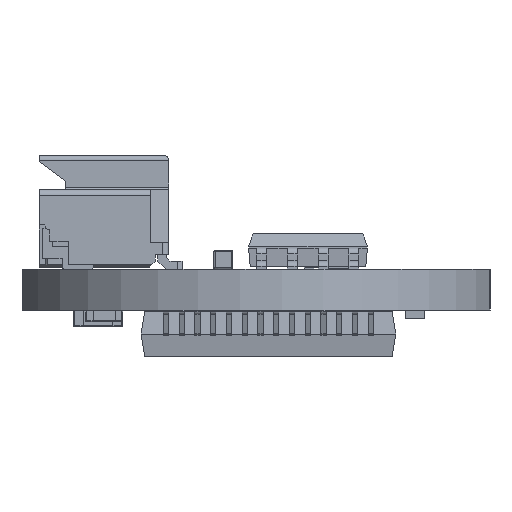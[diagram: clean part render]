
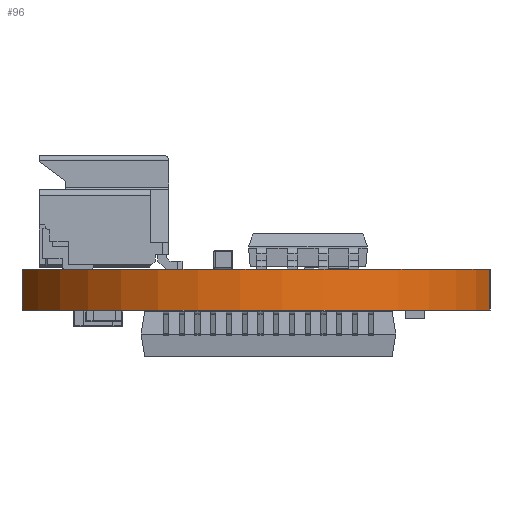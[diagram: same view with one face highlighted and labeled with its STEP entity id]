
A CAD part, left-side view. The second image highlights one B-rep face of the part: STEP entity #96.
In plain terms, the highlighted cylindrical face has radius 10.014 mm (diameter 20.028 mm), a partial arc.
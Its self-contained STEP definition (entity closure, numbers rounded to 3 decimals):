
#96 = ADVANCED_FACE('',(#97),#111,.T.);
#97 = FACE_BOUND('',#98,.T.);
#98 = EDGE_LOOP('',(#99,#134,#167,#195));
#99 = ORIENTED_EDGE('',*,*,#100,.T.);
#100 = EDGE_CURVE('',#101,#103,#105,.T.);
#101 = VERTEX_POINT('',#102);
#102 = CARTESIAN_POINT('',(-2.424,-9.703,0.));
#103 = VERTEX_POINT('',#104);
#104 = CARTESIAN_POINT('',(-2.424,-9.703,1.69));
#105 = SURFACE_CURVE('',#106,(#110,#122),.PCURVE_S1.);
#106 = LINE('',#107,#108);
#107 = CARTESIAN_POINT('',(-2.424,-9.703,0.));
#108 = VECTOR('',#109,1.);
#109 = DIRECTION('',(0.,0.,1.));
#110 = PCURVE('',#111,#116);
#111 = CYLINDRICAL_SURFACE('',#112,10.014);
#112 = AXIS2_PLACEMENT_3D('',#113,#114,#115);
#113 = CARTESIAN_POINT('',(-0.006,0.015,
    0.));
#114 = DIRECTION('',(0.,0.,-1.));
#115 = DIRECTION('',(-0.242,-0.97,0.));
#116 = DEFINITIONAL_REPRESENTATION('',(#117),#121);
#117 = LINE('',#118,#119);
#118 = CARTESIAN_POINT('',(0.,0.));
#119 = VECTOR('',#120,1.);
#120 = DIRECTION('',(0.,-1.));
#121 = ( GEOMETRIC_REPRESENTATION_CONTEXT(2) 
PARAMETRIC_REPRESENTATION_CONTEXT() REPRESENTATION_CONTEXT('2D SPACE',''
  ) );
#122 = PCURVE('',#123,#128);
#123 = CYLINDRICAL_SURFACE('',#124,0.074);
#124 = AXIS2_PLACEMENT_3D('',#125,#126,#127);
#125 = CARTESIAN_POINT('',(-2.407,-9.631,0.));
#126 = DIRECTION('',(0.,0.,-1.));
#127 = DIRECTION('',(-0.202,-0.979,0.));
#128 = DEFINITIONAL_REPRESENTATION('',(#129),#133);
#129 = LINE('',#130,#131);
#130 = CARTESIAN_POINT('',(0.037,0.));
#131 = VECTOR('',#132,1.);
#132 = DIRECTION('',(0.,-1.));
#133 = ( GEOMETRIC_REPRESENTATION_CONTEXT(2) 
PARAMETRIC_REPRESENTATION_CONTEXT() REPRESENTATION_CONTEXT('2D SPACE',''
  ) );
#134 = ORIENTED_EDGE('',*,*,#135,.T.);
#135 = EDGE_CURVE('',#103,#136,#138,.T.);
#136 = VERTEX_POINT('',#137);
#137 = CARTESIAN_POINT('',(-2.964,9.582,1.69));
#138 = SURFACE_CURVE('',#139,(#144,#151),.PCURVE_S1.);
#139 = CIRCLE('',#140,10.014);
#140 = AXIS2_PLACEMENT_3D('',#141,#142,#143);
#141 = CARTESIAN_POINT('',(-0.006,0.015,
    1.69));
#142 = DIRECTION('',(0.,0.,-1.));
#143 = DIRECTION('',(-0.242,-0.97,0.));
#144 = PCURVE('',#111,#145);
#145 = DEFINITIONAL_REPRESENTATION('',(#146),#150);
#146 = LINE('',#147,#148);
#147 = CARTESIAN_POINT('',(0.,-1.69));
#148 = VECTOR('',#149,1.);
#149 = DIRECTION('',(1.,0.));
#150 = ( GEOMETRIC_REPRESENTATION_CONTEXT(2) 
PARAMETRIC_REPRESENTATION_CONTEXT() REPRESENTATION_CONTEXT('2D SPACE',''
  ) );
#151 = PCURVE('',#152,#157);
#152 = PLANE('',#153);
#153 = AXIS2_PLACEMENT_3D('',#154,#155,#156);
#154 = CARTESIAN_POINT('',(-2.424,-9.703,1.69));
#155 = DIRECTION('',(0.,0.,1.));
#156 = DIRECTION('',(1.,0.,0.));
#157 = DEFINITIONAL_REPRESENTATION('',(#158),#166);
#158 = ( BOUNDED_CURVE() B_SPLINE_CURVE(2,(#159,#160,#161,#162,#163,#164
,#165),.UNSPECIFIED.,.F.,.F.) B_SPLINE_CURVE_WITH_KNOTS((1,2,2,2,2,1),(
    -2.094,0.,2.094,4.189,6.283,
8.378),.UNSPECIFIED.) CURVE() GEOMETRIC_REPRESENTATION_ITEM() 
RATIONAL_B_SPLINE_CURVE((1.,0.5,1.,0.5,1.,0.5,1.)) REPRESENTATION_ITEM(
  '') );
#159 = CARTESIAN_POINT('',(0.,0.));
#160 = CARTESIAN_POINT('',(-16.831,4.189));
#161 = CARTESIAN_POINT('',(-4.788,16.671));
#162 = CARTESIAN_POINT('',(7.255,29.152));
#163 = CARTESIAN_POINT('',(12.043,12.482));
#164 = CARTESIAN_POINT('',(16.831,-4.189));
#165 = CARTESIAN_POINT('',(0.,0.));
#166 = ( GEOMETRIC_REPRESENTATION_CONTEXT(2) 
PARAMETRIC_REPRESENTATION_CONTEXT() REPRESENTATION_CONTEXT('2D SPACE',''
  ) );
#167 = ORIENTED_EDGE('',*,*,#168,.F.);
#168 = EDGE_CURVE('',#169,#136,#171,.T.);
#169 = VERTEX_POINT('',#170);
#170 = CARTESIAN_POINT('',(-2.964,9.582,0.));
#171 = SURFACE_CURVE('',#172,(#176,#183),.PCURVE_S1.);
#172 = LINE('',#173,#174);
#173 = CARTESIAN_POINT('',(-2.964,9.582,0.));
#174 = VECTOR('',#175,1.);
#175 = DIRECTION('',(0.,0.,1.));
#176 = PCURVE('',#111,#177);
#177 = DEFINITIONAL_REPRESENTATION('',(#178),#182);
#178 = LINE('',#179,#180);
#179 = CARTESIAN_POINT('',(2.598,0.));
#180 = VECTOR('',#181,1.);
#181 = DIRECTION('',(0.,-1.));
#182 = ( GEOMETRIC_REPRESENTATION_CONTEXT(2) 
PARAMETRIC_REPRESENTATION_CONTEXT() REPRESENTATION_CONTEXT('2D SPACE',''
  ) );
#183 = PCURVE('',#184,#189);
#184 = CYLINDRICAL_SURFACE('',#185,0.064);
#185 = AXIS2_PLACEMENT_3D('',#186,#187,#188);
#186 = CARTESIAN_POINT('',(-2.945,9.521,0.));
#187 = DIRECTION('',(0.,0.,-1.));
#188 = DIRECTION('',(-0.295,0.955,0.));
#189 = DEFINITIONAL_REPRESENTATION('',(#190),#194);
#190 = LINE('',#191,#192);
#191 = CARTESIAN_POINT('',(0.,0.));
#192 = VECTOR('',#193,1.);
#193 = DIRECTION('',(0.,-1.));
#194 = ( GEOMETRIC_REPRESENTATION_CONTEXT(2) 
PARAMETRIC_REPRESENTATION_CONTEXT() REPRESENTATION_CONTEXT('2D SPACE',''
  ) );
#195 = ORIENTED_EDGE('',*,*,#196,.F.);
#196 = EDGE_CURVE('',#101,#169,#197,.T.);
#197 = SURFACE_CURVE('',#198,(#203,#210),.PCURVE_S1.);
#198 = CIRCLE('',#199,10.014);
#199 = AXIS2_PLACEMENT_3D('',#200,#201,#202);
#200 = CARTESIAN_POINT('',(-0.006,0.015,
    0.));
#201 = DIRECTION('',(0.,0.,-1.));
#202 = DIRECTION('',(-0.242,-0.97,0.));
#203 = PCURVE('',#111,#204);
#204 = DEFINITIONAL_REPRESENTATION('',(#205),#209);
#205 = LINE('',#206,#207);
#206 = CARTESIAN_POINT('',(0.,0.));
#207 = VECTOR('',#208,1.);
#208 = DIRECTION('',(1.,0.));
#209 = ( GEOMETRIC_REPRESENTATION_CONTEXT(2) 
PARAMETRIC_REPRESENTATION_CONTEXT() REPRESENTATION_CONTEXT('2D SPACE',''
  ) );
#210 = PCURVE('',#211,#216);
#211 = PLANE('',#212);
#212 = AXIS2_PLACEMENT_3D('',#213,#214,#215);
#213 = CARTESIAN_POINT('',(-2.424,-9.703,0.));
#214 = DIRECTION('',(0.,0.,1.));
#215 = DIRECTION('',(1.,0.,0.));
#216 = DEFINITIONAL_REPRESENTATION('',(#217),#225);
#217 = ( BOUNDED_CURVE() B_SPLINE_CURVE(2,(#218,#219,#220,#221,#222,#223
,#224),.UNSPECIFIED.,.F.,.F.) B_SPLINE_CURVE_WITH_KNOTS((1,2,2,2,2,1),(
    -2.094,0.,2.094,4.189,6.283,
8.378),.UNSPECIFIED.) CURVE() GEOMETRIC_REPRESENTATION_ITEM() 
RATIONAL_B_SPLINE_CURVE((1.,0.5,1.,0.5,1.,0.5,1.)) REPRESENTATION_ITEM(
  '') );
#218 = CARTESIAN_POINT('',(0.,0.));
#219 = CARTESIAN_POINT('',(-16.831,4.189));
#220 = CARTESIAN_POINT('',(-4.788,16.671));
#221 = CARTESIAN_POINT('',(7.255,29.152));
#222 = CARTESIAN_POINT('',(12.043,12.482));
#223 = CARTESIAN_POINT('',(16.831,-4.189));
#224 = CARTESIAN_POINT('',(0.,0.));
#225 = ( GEOMETRIC_REPRESENTATION_CONTEXT(2) 
PARAMETRIC_REPRESENTATION_CONTEXT() REPRESENTATION_CONTEXT('2D SPACE',''
  ) );
